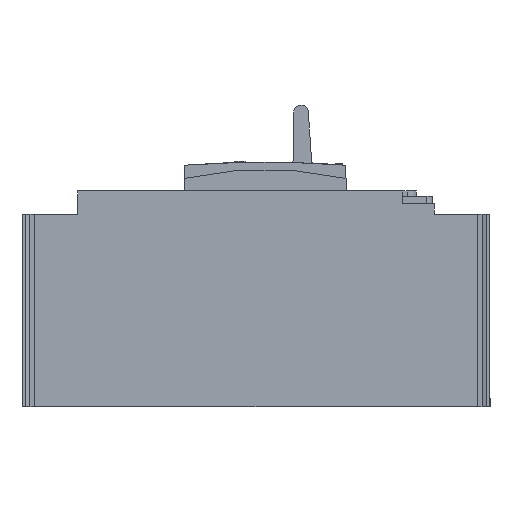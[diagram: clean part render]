
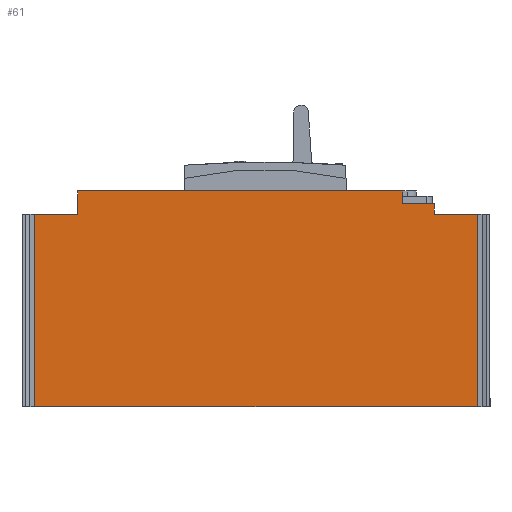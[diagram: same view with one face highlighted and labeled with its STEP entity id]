
A CAD part, left-side view. The second image highlights one B-rep face of the part: STEP entity #61.
In plain terms, the highlighted planar face has unit normal (-1, 0, 0) as drawn and (1, 0, 0) by its records, which use the part's own axes.
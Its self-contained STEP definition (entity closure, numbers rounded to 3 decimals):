
#21 = VECTOR ( 'NONE', #685, 1000. ) ;
#61 = ADVANCED_FACE ( 'NONE', ( #6228 ), #7180, .T. ) ;
#263 = EDGE_CURVE ( 'NONE', #2655, #9016, #6014, .T. ) ;
#276 = EDGE_CURVE ( 'NONE', #1757, #693, #6337, .T. ) ;
#289 = VERTEX_POINT ( 'NONE', #5710 ) ;
#297 = CARTESIAN_POINT ( 'NONE',  ( 37.5, 0., -61.5 ) ) ;
#336 = LINE ( 'NONE', #3185, #4497 ) ;
#394 = CARTESIAN_POINT ( 'NONE',  ( 37.5, 0., 61.5 ) ) ;
#482 = EDGE_CURVE ( 'NONE', #5505, #915, #3997, .T. ) ;
#557 = LINE ( 'NONE', #4451, #6244 ) ;
#685 = DIRECTION ( 'NONE',  ( 0., 0., 1. ) ) ;
#693 = VERTEX_POINT ( 'NONE', #4494 ) ;
#784 = EDGE_CURVE ( 'NONE', #693, #2018, #4317, .T. ) ;
#915 = VERTEX_POINT ( 'NONE', #4703 ) ;
#1099 = VECTOR ( 'NONE', #2714, 1000. ) ;
#1204 = VECTOR ( 'NONE', #1749, 1000. ) ;
#1231 = LINE ( 'NONE', #9131, #2154 ) ;
#1474 = EDGE_CURVE ( 'NONE', #9016, #9392, #6463, .T. ) ;
#1749 = DIRECTION ( 'NONE',  ( 0., -1., 0. ) ) ;
#1757 = VERTEX_POINT ( 'NONE', #10546 ) ;
#1785 = CARTESIAN_POINT ( 'NONE',  ( 37.5, 0., 61.5 ) ) ;
#1861 = ORIENTED_EDGE ( 'NONE', *, *, #4034, .T. ) ;
#1999 = ORIENTED_EDGE ( 'NONE', *, *, #276, .T. ) ;
#2018 = VERTEX_POINT ( 'NONE', #12167 ) ;
#2142 = CARTESIAN_POINT ( 'NONE',  ( 37.5, 53.5, 49.5 ) ) ;
#2154 = VECTOR ( 'NONE', #4140, 1000. ) ;
#2631 = CARTESIAN_POINT ( 'NONE',  ( 37.5, 60., 49.5 ) ) ;
#2655 = VERTEX_POINT ( 'NONE', #2142 ) ;
#2714 = DIRECTION ( 'NONE',  ( 0., -1., 0. ) ) ;
#2915 = VECTOR ( 'NONE', #6538, 1000. ) ;
#3185 = CARTESIAN_POINT ( 'NONE',  ( 37.5, 56.5, -47.5 ) ) ;
#3537 = CARTESIAN_POINT ( 'NONE',  ( 37.5, 60., -40.75 ) ) ;
#3997 = LINE ( 'NONE', #11899, #11412 ) ;
#4034 = EDGE_CURVE ( 'NONE', #9392, #8389, #557, .T. ) ;
#4140 = DIRECTION ( 'NONE',  ( 0., 1., 0. ) ) ;
#4317 = LINE ( 'NONE', #10442, #11859 ) ;
#4451 = CARTESIAN_POINT ( 'NONE',  ( 37.5, 0., 65. ) ) ;
#4494 = CARTESIAN_POINT ( 'NONE',  ( 37.5, 53.5, -49.5 ) ) ;
#4497 = VECTOR ( 'NONE', #9141, 1000. ) ;
#4703 = CARTESIAN_POINT ( 'NONE',  ( 37.5, 60., 49.5 ) ) ;
#4803 = VECTOR ( 'NONE', #7386, 1000. ) ;
#5111 = DIRECTION ( 'NONE',  ( 0., 0., 1. ) ) ;
#5297 = DIRECTION ( 'NONE',  ( 0., 0., -1. ) ) ;
#5303 = CARTESIAN_POINT ( 'NONE',  ( 37.5, 60., -40.75 ) ) ;
#5505 = VERTEX_POINT ( 'NONE', #5303 ) ;
#5540 = ORIENTED_EDGE ( 'NONE', *, *, #263, .T. ) ;
#5710 = CARTESIAN_POINT ( 'NONE',  ( 37.5, 56.5, -40.75 ) ) ;
#5901 = EDGE_CURVE ( 'NONE', #915, #2655, #7880, .T. ) ;
#6004 = ORIENTED_EDGE ( 'NONE', *, *, #5901, .T. ) ;
#6014 = LINE ( 'NONE', #10583, #21 ) ;
#6228 = FACE_OUTER_BOUND ( 'NONE', #7441, .T. ) ;
#6244 = VECTOR ( 'NONE', #7461, 1000. ) ;
#6250 = EDGE_CURVE ( 'NONE', #2018, #289, #336, .T. ) ;
#6337 = LINE ( 'NONE', #12422, #2915 ) ;
#6448 = EDGE_CURVE ( 'NONE', #289, #5505, #10192, .T. ) ;
#6463 = LINE ( 'NONE', #1785, #1204 ) ;
#6531 = ORIENTED_EDGE ( 'NONE', *, *, #6250, .T. ) ;
#6538 = DIRECTION ( 'NONE',  ( 0., 0., 1. ) ) ;
#6835 = ORIENTED_EDGE ( 'NONE', *, *, #11685, .T. ) ;
#7137 = CARTESIAN_POINT ( 'NONE',  ( 37.5, 0., 0. ) ) ;
#7180 = PLANE ( 'NONE',  #8227 ) ;
#7386 = DIRECTION ( 'NONE',  ( 0., 1., 0. ) ) ;
#7441 = EDGE_LOOP ( 'NONE', ( #7909, #6004, #5540, #8340, #1861, #6835, #1999, #11738, #6531, #8158 ) ) ;
#7461 = DIRECTION ( 'NONE',  ( 0., 0., -1. ) ) ;
#7880 = LINE ( 'NONE', #2631, #1099 ) ;
#7909 = ORIENTED_EDGE ( 'NONE', *, *, #482, .T. ) ;
#8158 = ORIENTED_EDGE ( 'NONE', *, *, #6448, .T. ) ;
#8227 = AXIS2_PLACEMENT_3D ( 'NONE', #7137, #11194, #5297 ) ;
#8340 = ORIENTED_EDGE ( 'NONE', *, *, #1474, .T. ) ;
#8389 = VERTEX_POINT ( 'NONE', #297 ) ;
#9016 = VERTEX_POINT ( 'NONE', #11126 ) ;
#9131 = CARTESIAN_POINT ( 'NONE',  ( 37.5, 0., -61.5 ) ) ;
#9141 = DIRECTION ( 'NONE',  ( 0., 0., 1. ) ) ;
#9392 = VERTEX_POINT ( 'NONE', #394 ) ;
#10192 = LINE ( 'NONE', #3537, #4803 ) ;
#10442 = CARTESIAN_POINT ( 'NONE',  ( 37.5, 53.5, -49.5 ) ) ;
#10546 = CARTESIAN_POINT ( 'NONE',  ( 37.5, 53.5, -61.5 ) ) ;
#10583 = CARTESIAN_POINT ( 'NONE',  ( 37.5, 53.5, 49.5 ) ) ;
#11126 = CARTESIAN_POINT ( 'NONE',  ( 37.5, 53.5, 61.5 ) ) ;
#11194 = DIRECTION ( 'NONE',  ( 1., 0., 0. ) ) ;
#11412 = VECTOR ( 'NONE', #5111, 1000. ) ;
#11685 = EDGE_CURVE ( 'NONE', #8389, #1757, #1231, .T. ) ;
#11738 = ORIENTED_EDGE ( 'NONE', *, *, #784, .T. ) ;
#11859 = VECTOR ( 'NONE', #12322, 1000. ) ;
#11899 = CARTESIAN_POINT ( 'NONE',  ( 37.5, 60., -40.75 ) ) ;
#12167 = CARTESIAN_POINT ( 'NONE',  ( 37.5, 56.5, -49.5 ) ) ;
#12322 = DIRECTION ( 'NONE',  ( 0., 1., 0. ) ) ;
#12422 = CARTESIAN_POINT ( 'NONE',  ( 37.5, 53.5, -65. ) ) ;
